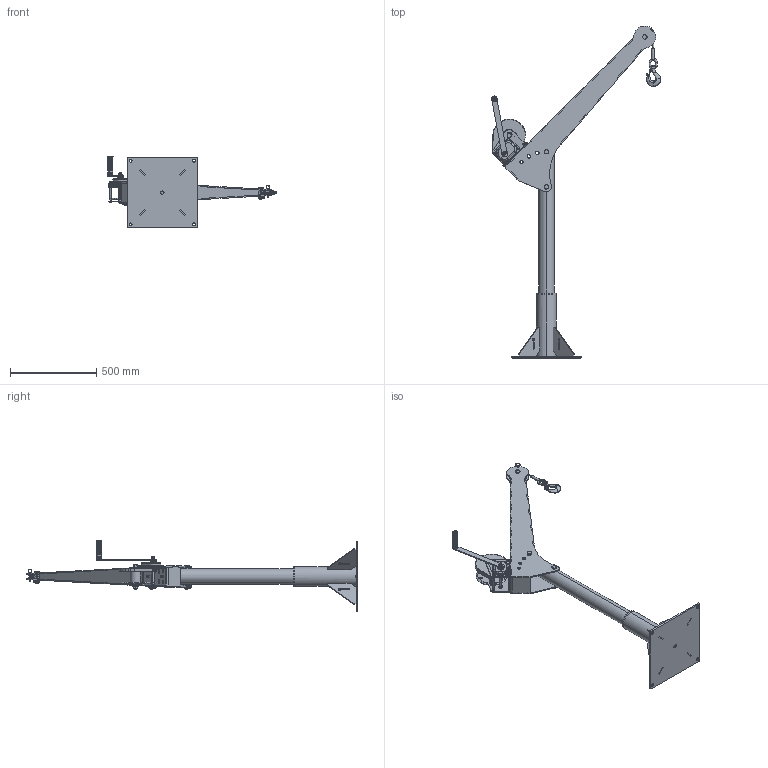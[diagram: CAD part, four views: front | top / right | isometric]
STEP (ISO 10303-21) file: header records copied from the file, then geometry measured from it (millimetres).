
FILE_DESCRIPTION (( 'STEP AP214' ), '1' );
FILE_NAME ('OZSS1500DAV.STEP', '2026-05-13T16:06:57', ( '' ), ( '' ), 'SwSTEP 2.0', 'SolidWorks 2023', '' );
FILE_SCHEMA (( 'AUTOMOTIVE_DESIGN' ));
Length unit declared in the file: inch
Products named in the file (30): 290-0000; 261-0080; OZPED1-TPSS_No base cap, No decals; 316-02500-150; 360-0380; 261-0283; 236-03816-000_93560A160; OZ1500BWSS; 306-01900-100_90170A205; 790-1401_35165T65; 261-0282; 361-0000_NO BASE CAP; OZSS1500DAV; 360-0080; 360-0281; 261-0280; 236-05013-000_93560A180; 261-0081; 390-0392; 366-07500-188; 261-0281; 290-0390; 360-0290; 608-07500-075; 366-07500-475; 360-0180; 261-0082; 261-0000_POS 4; 360-0280; 261-0180
Assembly tree (41 placements, depth 5):
  OZSS1500DAV
    261-0000_POS 4
      261-0082
        261-0180
        261-0283
      261-0080
        261-0280
        261-0281  x2
        261-0081
          261-0282
          236-05013-000_93560A180  x3
          236-03816-000_93560A160  x4
      306-01900-100_90170A205  x3
      316-02500-150
      290-0000
        608-07500-075
        290-0390
      366-07500-475  x2
      366-07500-188
    790-1401_35165T65
    OZ1500BWSS
    OZPED1-TPSS_No base cap, No decals
      361-0000_NO BASE CAP
        360-0080
          360-0180
          360-0280
          360-0380
          360-0281  x4
        390-0392
        360-0290
Bounding box: 978.97 x 1919.1 x 412.95 mm (x, y, z)
Volume: 9875644.9 mm3; surface area: 3002207.1 mm2
Topology: 92 solids, 92 shells, 2992 faces, 7810 edges, 5030 vertices
Faces by surface type: cylinder 1146, plane 1032, cone 465, bspline 194, torus 120, sphere 35
Entity records: 99899 total; most frequent: CARTESIAN_POINT 37959, ORIENTED_EDGE 12716, DIRECTION 12530, EDGE_CURVE 6358, AXIS2_PLACEMENT_3D 4827, VERTEX_POINT 4105, VECTOR 2876, LINE 2876
